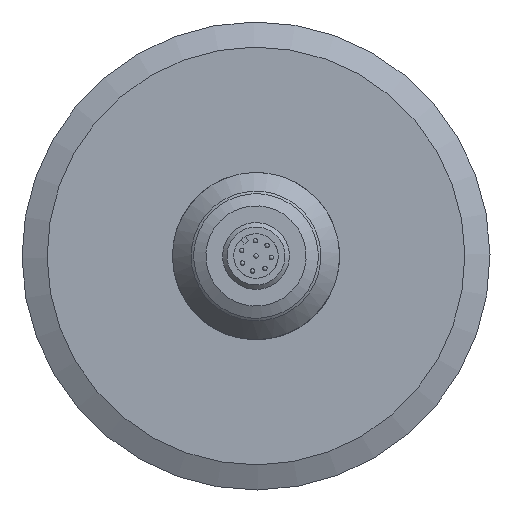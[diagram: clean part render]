
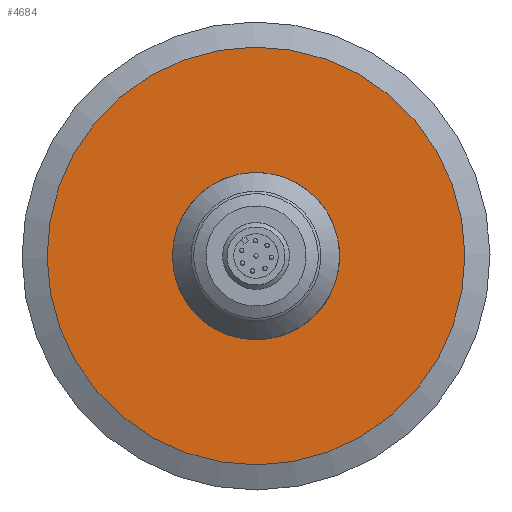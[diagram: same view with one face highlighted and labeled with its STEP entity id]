
A CAD part, front view. The second image highlights one B-rep face of the part: STEP entity #4684.
In plain terms, the highlighted planar face has unit normal (0, -1, 0).
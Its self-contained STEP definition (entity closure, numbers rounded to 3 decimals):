
#930=ORIENTED_EDGE('',*,*,#1760,.F.);
#931=ORIENTED_EDGE('',*,*,#1759,.T.);
#1759=EDGE_CURVE('',#2189,#2189,#2493,.T.);
#1760=EDGE_CURVE('',#2190,#2190,#2494,.T.);
#2189=VERTEX_POINT('',#6514);
#2190=VERTEX_POINT('',#6517);
#2493=CIRCLE('',#4938,37.497);
#2494=CIRCLE('',#4940,15.);
#2618=EDGE_LOOP('',(#930));
#2619=EDGE_LOOP('',(#931));
#2892=FACE_BOUND('',#2618,.T.);
#2893=FACE_BOUND('',#2619,.T.);
#3100=PLANE('',#4939);
#4684=ADVANCED_FACE('',(#2892,#2893),#3100,.T.);
#4938=AXIS2_PLACEMENT_3D('',#6513,#5282,#5283);
#4939=AXIS2_PLACEMENT_3D('',#6515,#5284,#5285);
#4940=AXIS2_PLACEMENT_3D('',#6516,#5286,#5287);
#5282=DIRECTION('',(0.,-1.,0.));
#5283=DIRECTION('',(-0.984,0.,-0.181));
#5284=DIRECTION('',(0.,-1.,0.));
#5285=DIRECTION('',(-0.984,0.,-0.181));
#5286=DIRECTION('',(0.,-1.,0.));
#5287=DIRECTION('',(0.,0.,-1.));
#6513=CARTESIAN_POINT('',(0.,18.378,0.));
#6514=CARTESIAN_POINT('',(-36.88,18.378,-6.774));
#6515=CARTESIAN_POINT('',(-18.44,18.378,-3.387));
#6516=CARTESIAN_POINT('',(0.,18.378,0.));
#6517=CARTESIAN_POINT('',(0.,18.378,-15.));
